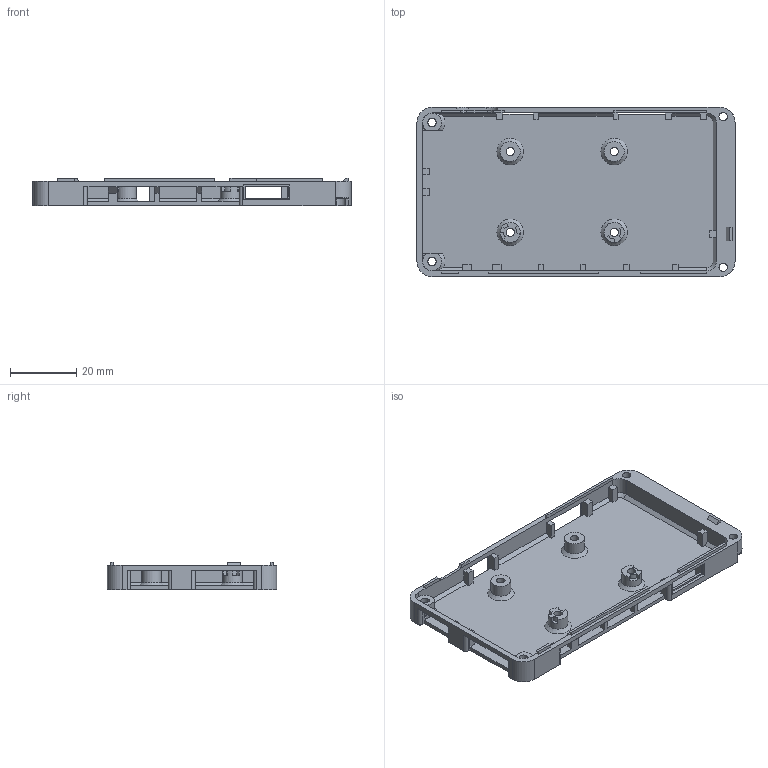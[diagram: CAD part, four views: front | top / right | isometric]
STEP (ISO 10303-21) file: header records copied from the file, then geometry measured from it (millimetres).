
FILE_DESCRIPTION(/* description */ (''),/* implementation_level */ '2;1');
FILE_NAME(/* name */ '800-10089 ENCLOSURE, VMU-RT1176 MAIN HOUSING, SLA RESIN.step',/* time_stamp */ '2025-07-22T13:30:50-06:00',/* author */ (''),/* organization */ (''),/* preprocessor_version */ 'ST-DEVELOPER v20.1',/* originating_system */ 'Autodesk Translation Framework v14.10.0.0',/* authorisation */ '');
FILE_SCHEMA (('AUTOMOTIVE_DESIGN { 1 0 10303 214 3 1 1 }'));
Length unit declared in the file: millimetre
Products named in the file (1): 800-10089 ENCLOSURE, VMU-RT1176 MAIN HOUSING, SLA RESIN
Bounding box: 96.01 x 51.1 x 8.42 mm (x, y, z)
Volume: 9691.5 mm3; surface area: 13856.8 mm2
Topology: 1 solids, 1 shells, 264 faces, 753 edges, 476 vertices
Faces by surface type: plane 168, cylinder 61, bspline 18, cone 17
Full cylindrical faces by diameter (mm): 2.5 x8, 4 x4, 4.2 x2, 6 x4
Entity records: 9128 total; most frequent: CARTESIAN_POINT 2226, ORIENTED_EDGE 1502, DIRECTION 1344, EDGE_CURVE 751, LINE 544, VECTOR 544, VERTEX_POINT 476, AXIS2_PLACEMENT_3D 400
